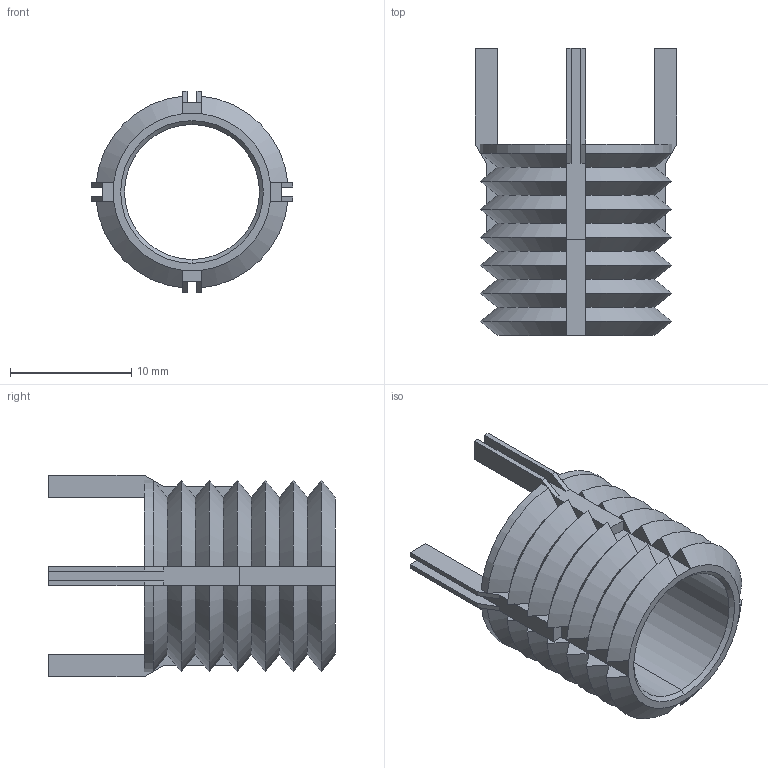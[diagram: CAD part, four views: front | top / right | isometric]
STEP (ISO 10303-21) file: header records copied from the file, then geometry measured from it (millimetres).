
FILE_DESCRIPTION (( 'STEP AP203' ), '1' );
FILE_NAME ('TR1565.66305.step', '2023-03-29T14:31:12', ( '' ), ( '' ), 'SwSTEP 2.0', 'SolidWorks 2019', '' );
FILE_SCHEMA (( 'CONFIG_CONTROL_DESIGN' ));
Length unit declared in the file: inch
Products named in the file (3): Part2_TR1565.66305; Part1_TR1565.66305; TR1565.66305
Assembly tree (5 placements, depth 2):
  TR1565.66305
    Part1_TR1565.66305
    Part2_TR1565.66305  x4
Bounding box: 16.59 x 23.62 x 16.59 mm (x, y, z)
Volume: 1118 mm3; surface area: 2287.9 mm2
Topology: 5 solids, 5 shells, 172 faces, 378 edges, 216 vertices
Faces by surface type: plane 110, cone 56, cylinder 6
Entity records: 4083 total; most frequent: CARTESIAN_POINT 972, ORIENTED_EDGE 576, DIRECTION 540, EDGE_CURVE 288, AXIS2_PLACEMENT_3D 212, VERTEX_POINT 156, EDGE_LOOP 138, ADVANCED_FACE 136
